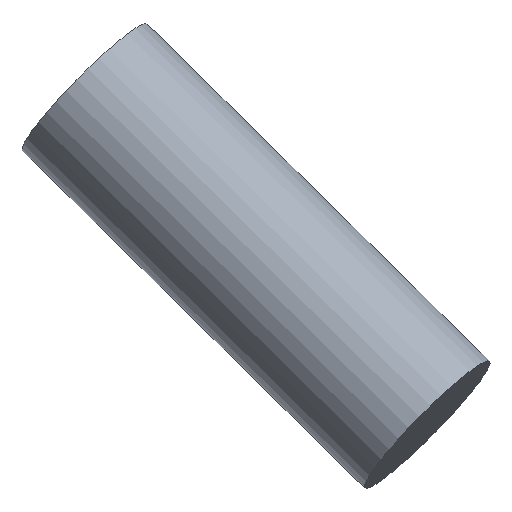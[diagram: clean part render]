
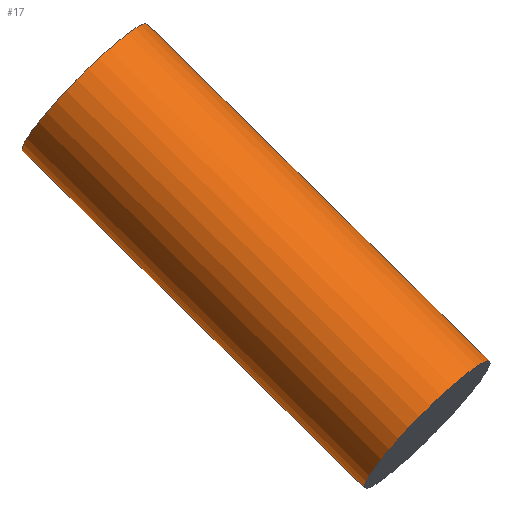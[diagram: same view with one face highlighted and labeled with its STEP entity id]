
A CAD part, top view. The second image highlights one B-rep face of the part: STEP entity #17.
In plain terms, the highlighted cylindrical face has radius 3.3 mm (diameter 6.6 mm), a full revolution.
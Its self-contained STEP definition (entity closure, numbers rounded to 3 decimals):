
#17 = ADVANCED_FACE('',(#18),#31,.T.);
#18 = FACE_BOUND('',#19,.T.);
#19 = EDGE_LOOP('',(#20,#54,#76,#103));
#20 = ORIENTED_EDGE('',*,*,#21,.F.);
#21 = EDGE_CURVE('',#22,#22,#24,.T.);
#22 = VERTEX_POINT('',#23);
#23 = CARTESIAN_POINT('',(104.989,65.512,73.218
    ));
#24 = SURFACE_CURVE('',#25,(#30,#42),.PCURVE_S1.);
#25 = CIRCLE('',#26,3.3);
#26 = AXIS2_PLACEMENT_3D('',#27,#28,#29);
#27 = CARTESIAN_POINT('',(102.674,63.161,
    73.218));
#28 = DIRECTION('',(0.707,-0.696,0.123));
#29 = DIRECTION('',(0.702,0.712,0.));
#30 = PCURVE('',#31,#36);
#31 = CYLINDRICAL_SURFACE('',#32,3.3);
#32 = AXIS2_PLACEMENT_3D('',#33,#34,#35);
#33 = CARTESIAN_POINT('',(89.946,75.695,
    71.008));
#34 = DIRECTION('',(0.707,-0.696,0.123));
#35 = DIRECTION('',(0.702,0.712,0.));
#36 = DEFINITIONAL_REPRESENTATION('',(#37),#41);
#37 = LINE('',#38,#39);
#38 = CARTESIAN_POINT('',(0.,18.));
#39 = VECTOR('',#40,1.);
#40 = DIRECTION('',(1.,0.));
#41 = ( GEOMETRIC_REPRESENTATION_CONTEXT(2) 
PARAMETRIC_REPRESENTATION_CONTEXT() REPRESENTATION_CONTEXT('2D SPACE',''
  ) );
#42 = PCURVE('',#43,#48);
#43 = PLANE('',#44);
#44 = AXIS2_PLACEMENT_3D('',#45,#46,#47);
#45 = CARTESIAN_POINT('',(102.674,63.161,
    73.218));
#46 = DIRECTION('',(0.707,-0.696,0.123));
#47 = DIRECTION('',(0.702,0.712,0.));
#48 = DEFINITIONAL_REPRESENTATION('',(#49),#53);
#49 = CIRCLE('',#50,3.3);
#50 = AXIS2_PLACEMENT_2D('',#51,#52);
#51 = CARTESIAN_POINT('',(0.,0.));
#52 = DIRECTION('',(1.,0.));
#53 = ( GEOMETRIC_REPRESENTATION_CONTEXT(2) 
PARAMETRIC_REPRESENTATION_CONTEXT() REPRESENTATION_CONTEXT('2D SPACE',''
  ) );
#54 = ORIENTED_EDGE('',*,*,#55,.F.);
#55 = EDGE_CURVE('',#56,#22,#58,.T.);
#56 = VERTEX_POINT('',#57);
#57 = CARTESIAN_POINT('',(92.262,78.047,
    71.008));
#58 = SEAM_CURVE('',#59,(#62,#69),.PCURVE_S1.);
#59 = B_SPLINE_CURVE_WITH_KNOTS('',1,(#60,#61),.UNSPECIFIED.,.F.,.F.,(2,
    2),(0.,18.),.PIECEWISE_BEZIER_KNOTS.);
#60 = CARTESIAN_POINT('',(92.262,78.047,
    71.008));
#61 = CARTESIAN_POINT('',(104.989,65.512,73.218
    ));
#62 = PCURVE('',#31,#63);
#63 = DEFINITIONAL_REPRESENTATION('',(#64),#68);
#64 = LINE('',#65,#66);
#65 = CARTESIAN_POINT('',(0.,0.));
#66 = VECTOR('',#67,1.);
#67 = DIRECTION('',(0.,1.));
#68 = ( GEOMETRIC_REPRESENTATION_CONTEXT(2) 
PARAMETRIC_REPRESENTATION_CONTEXT() REPRESENTATION_CONTEXT('2D SPACE',''
  ) );
#69 = PCURVE('',#31,#70);
#70 = DEFINITIONAL_REPRESENTATION('',(#71),#75);
#71 = LINE('',#72,#73);
#72 = CARTESIAN_POINT('',(6.283,0.));
#73 = VECTOR('',#74,1.);
#74 = DIRECTION('',(0.,1.));
#75 = ( GEOMETRIC_REPRESENTATION_CONTEXT(2) 
PARAMETRIC_REPRESENTATION_CONTEXT() REPRESENTATION_CONTEXT('2D SPACE',''
  ) );
#76 = ORIENTED_EDGE('',*,*,#77,.T.);
#77 = EDGE_CURVE('',#56,#56,#78,.T.);
#78 = SURFACE_CURVE('',#79,(#84,#91),.PCURVE_S1.);
#79 = CIRCLE('',#80,3.3);
#80 = AXIS2_PLACEMENT_3D('',#81,#82,#83);
#81 = CARTESIAN_POINT('',(89.946,75.695,
    71.008));
#82 = DIRECTION('',(0.707,-0.696,0.123));
#83 = DIRECTION('',(0.702,0.712,0.));
#84 = PCURVE('',#31,#85);
#85 = DEFINITIONAL_REPRESENTATION('',(#86),#90);
#86 = LINE('',#87,#88);
#87 = CARTESIAN_POINT('',(0.,0.));
#88 = VECTOR('',#89,1.);
#89 = DIRECTION('',(1.,0.));
#90 = ( GEOMETRIC_REPRESENTATION_CONTEXT(2) 
PARAMETRIC_REPRESENTATION_CONTEXT() REPRESENTATION_CONTEXT('2D SPACE',''
  ) );
#91 = PCURVE('',#92,#97);
#92 = PLANE('',#93);
#93 = AXIS2_PLACEMENT_3D('',#94,#95,#96);
#94 = CARTESIAN_POINT('',(89.946,75.695,
    71.008));
#95 = DIRECTION('',(0.707,-0.696,0.123));
#96 = DIRECTION('',(0.702,0.712,0.));
#97 = DEFINITIONAL_REPRESENTATION('',(#98),#102);
#98 = CIRCLE('',#99,3.3);
#99 = AXIS2_PLACEMENT_2D('',#100,#101);
#100 = CARTESIAN_POINT('',(0.,0.));
#101 = DIRECTION('',(1.,0.));
#102 = ( GEOMETRIC_REPRESENTATION_CONTEXT(2) 
PARAMETRIC_REPRESENTATION_CONTEXT() REPRESENTATION_CONTEXT('2D SPACE',''
  ) );
#103 = ORIENTED_EDGE('',*,*,#55,.T.);
